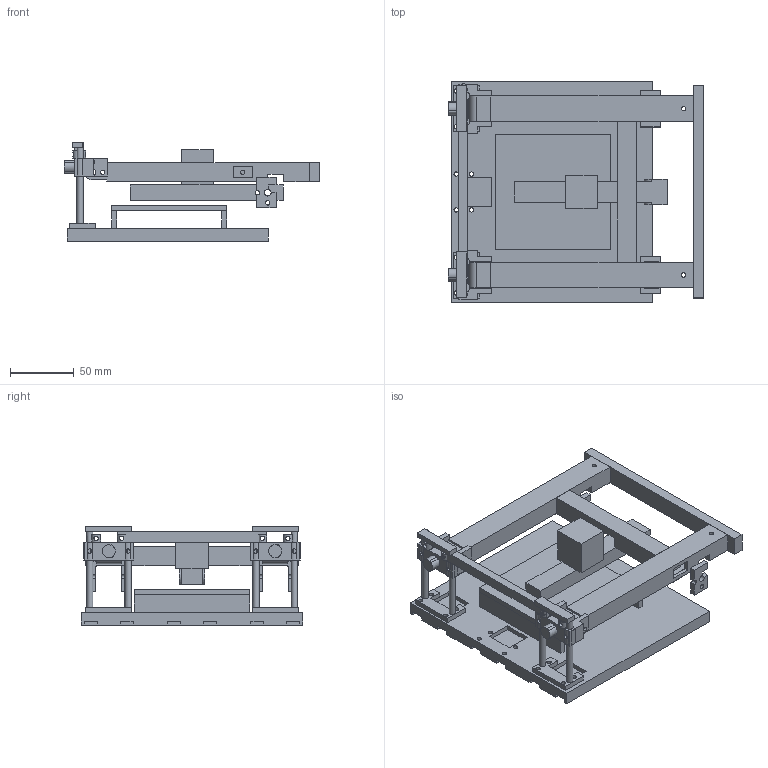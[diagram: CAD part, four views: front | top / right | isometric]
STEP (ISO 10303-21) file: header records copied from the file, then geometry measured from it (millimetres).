
FILE_DESCRIPTION(('Open CASCADE Model'),'2;1');
FILE_NAME('F09_asm_folded','2026-11-15T22:32:16',('Author'),( 'Open CASCADE'),'Open CASCADE STEP processor 8.0','build123d', 'Unknown');
FILE_SCHEMA(('AUTOMOTIVE_DESIGN { 1 0 10303 214 1 1 1 1 }'));
Length unit declared in the file: millimetre
Products named in the file (10): F09_asm_folded; BASE; BED; TWR_1; CAR_1; SYNC; COL_1; XBAR; BRG; ARM
Assembly tree (12 placements, depth 2):
  F09_asm_folded
    BASE
    BED
    TWR_1  x2
    CAR_1  x2
    SYNC
    COL_1  x2
    XBAR
    BRG
    ARM
Bounding box: 199.5 x 173.5 x 77 mm (x, y, z)
Volume: 489199.8 mm3; surface area: 181632.6 mm2
Topology: 12 solids, 12 shells, 507 faces, 1412 edges, 928 vertices
Faces by surface type: plane 385, cylinder 122
Full cylindrical faces by diameter (mm): 3.4 x65, 5 x4, 5.3 x7, 5.4 x4
Entity records: 28284 total; most frequent: CARTESIAN_POINT 10136, DIRECTION 3086, LINE 1934, VECTOR 1934, ORIENTED_EDGE 1852, PCURVE 1852, DEFINITIONAL_REPRESENTATION 1852, EDGE_CURVE 926
